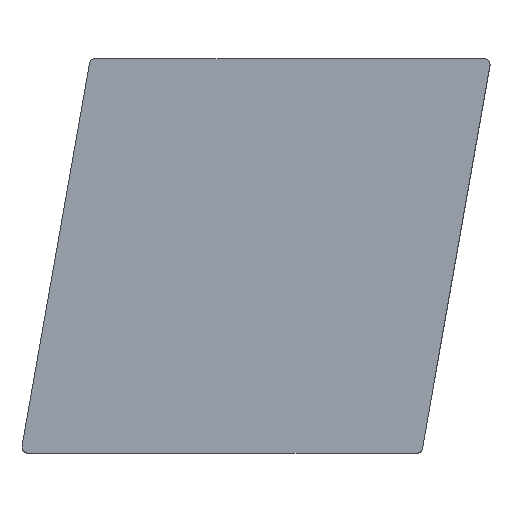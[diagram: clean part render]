
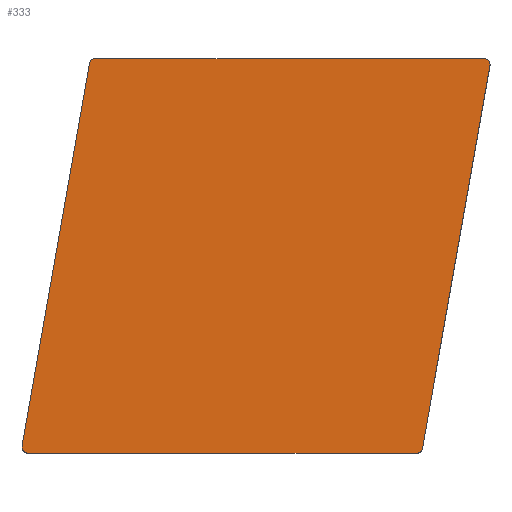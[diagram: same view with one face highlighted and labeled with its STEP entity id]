
A CAD part, top view. The second image highlights one B-rep face of the part: STEP entity #333.
In plain terms, the highlighted planar face has unit normal (0, 0, 1).
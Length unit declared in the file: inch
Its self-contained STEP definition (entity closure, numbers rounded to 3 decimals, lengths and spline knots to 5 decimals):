
#51=CARTESIAN_POINT('',(0.29628,0.24061,0.0));
#52=VERTEX_POINT('',#51);
#53=CARTESIAN_POINT('',(0.2884,0.25,0.0));
#54=VERTEX_POINT('',#53);
#55=CARTESIAN_POINT('',(0.2884,0.242,0.0));
#56=DIRECTION('',(0.0,0.0,1.0));
#57=DIRECTION('',(1.0,0.0,0.0));
#58=AXIS2_PLACEMENT_3D('',#55,#56,#57);
#59=CIRCLE('',#58,0.008);
#60=EDGE_CURVE('',#52,#54,#59,.T.);
#93=CARTESIAN_POINT('',(-0.20306,0.25,0.0));
#94=VERTEX_POINT('',#93);
#95=CARTESIAN_POINT('',(0.2884,0.25,0.0));
#96=DIRECTION('',(-1.0,0.0,0.0));
#97=VECTOR('',#96,1.0);
#98=LINE('',#95,#97);
#99=EDGE_CURVE('',#54,#94,#98,.T.);
#124=CARTESIAN_POINT('',(-0.21094,0.24339,0.0));
#125=VERTEX_POINT('',#124);
#126=CARTESIAN_POINT('',(-0.20306,0.242,0.0));
#127=DIRECTION('',(0.0,0.0,1.0));
#128=DIRECTION('',(1.0,0.0,0.0));
#129=AXIS2_PLACEMENT_3D('',#126,#127,#128);
#130=CIRCLE('',#129,0.008);
#131=EDGE_CURVE('',#94,#125,#130,.T.);
#157=CARTESIAN_POINT('',(-0.29628,-0.24061,0.0));
#158=VERTEX_POINT('',#157);
#159=CARTESIAN_POINT('',(-0.21094,0.24339,0.0));
#160=DIRECTION('',(-0.174,-0.985,0.0));
#161=VECTOR('',#160,1.);
#162=LINE('',#159,#161);
#163=EDGE_CURVE('',#125,#158,#162,.T.);
#188=CARTESIAN_POINT('',(-0.2884,-0.25,0.0));
#189=VERTEX_POINT('',#188);
#190=CARTESIAN_POINT('',(-0.2884,-0.242,0.0));
#191=DIRECTION('',(0.0,0.0,1.0));
#192=DIRECTION('',(1.0,0.0,0.0));
#193=AXIS2_PLACEMENT_3D('',#190,#191,#192);
#194=CIRCLE('',#193,0.008);
#195=EDGE_CURVE('',#158,#189,#194,.T.);
#221=CARTESIAN_POINT('',(0.20306,-0.25,0.0));
#222=VERTEX_POINT('',#221);
#223=CARTESIAN_POINT('',(-0.2884,-0.25,0.0));
#224=DIRECTION('',(1.0,0.0,0.0));
#225=VECTOR('',#224,1.0);
#226=LINE('',#223,#225);
#227=EDGE_CURVE('',#189,#222,#226,.T.);
#252=CARTESIAN_POINT('',(0.21094,-0.24339,0.0));
#253=VERTEX_POINT('',#252);
#254=CARTESIAN_POINT('',(0.20306,-0.242,0.0));
#255=DIRECTION('',(0.0,0.0,1.0));
#256=DIRECTION('',(1.0,0.0,0.0));
#257=AXIS2_PLACEMENT_3D('',#254,#255,#256);
#258=CIRCLE('',#257,0.008);
#259=EDGE_CURVE('',#222,#253,#258,.T.);
#285=CARTESIAN_POINT('',(0.21094,-0.24339,0.0));
#286=DIRECTION('',(0.174,0.985,0.0));
#287=VECTOR('',#286,1.);
#288=LINE('',#285,#287);
#289=EDGE_CURVE('',#253,#52,#288,.T.);
#318=CARTESIAN_POINT('',(0.2884,0.242,0.0));
#319=DIRECTION('',(0.0,0.0,1.0));
#320=DIRECTION('',(1.0,0.0,0.0));
#321=AXIS2_PLACEMENT_3D('',#318,#319,#320);
#322=PLANE('',#321);
#323=ORIENTED_EDGE('',*,*,#60,.T.);
#324=ORIENTED_EDGE('',*,*,#99,.T.);
#325=ORIENTED_EDGE('',*,*,#131,.T.);
#326=ORIENTED_EDGE('',*,*,#163,.T.);
#327=ORIENTED_EDGE('',*,*,#195,.T.);
#328=ORIENTED_EDGE('',*,*,#227,.T.);
#329=ORIENTED_EDGE('',*,*,#259,.T.);
#330=ORIENTED_EDGE('',*,*,#289,.T.);
#331=EDGE_LOOP('',(#323,#324,#325,#326,#327,#328,#329,#330));
#332=FACE_OUTER_BOUND('',#331,.T.);
#333=ADVANCED_FACE('',(#332),#322,.T.);
